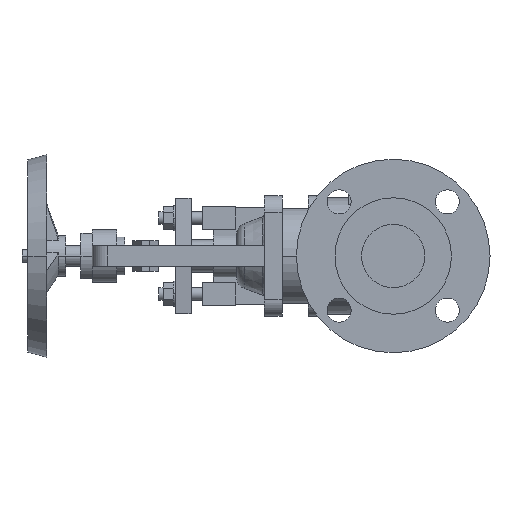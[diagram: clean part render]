
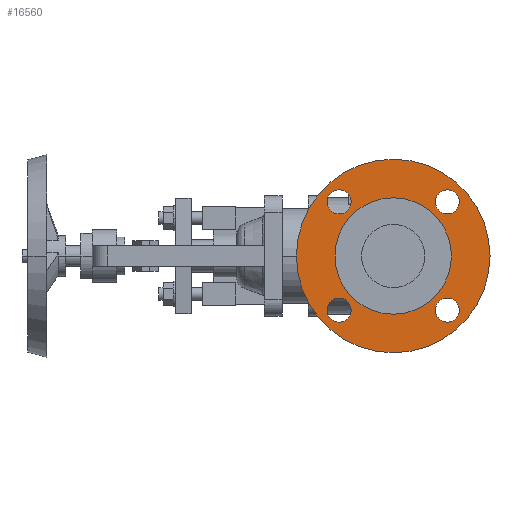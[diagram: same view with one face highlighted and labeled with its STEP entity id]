
A CAD part, left-side view. The second image highlights one B-rep face of the part: STEP entity #16560.
In plain terms, the highlighted planar face has unit normal (-1, 0, 0).
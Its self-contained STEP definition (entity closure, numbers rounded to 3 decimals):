
#3300=CARTESIAN_POINT('',(1.6,0.,76.5));
#3310=VERTEX_POINT('',#3300);
#3340=CARTESIAN_POINT('',(1.6,0.,0.));
#3350=DIRECTION('',(1.,0.,0.));
#3360=DIRECTION('',(0.,0.,-1.));
#3370=AXIS2_PLACEMENT_3D('',#3340,#3350,#3360);
#3380=CIRCLE('',#3370,76.5);
#3390=CARTESIAN_POINT('',(1.6,0.,-76.5));
#3400=VERTEX_POINT('',#3390);
#3410=EDGE_CURVE('',#3400,#3310,#3380,.T.);
#3790=CARTESIAN_POINT('',(1.6,42.78,
-52.28));
#3800=VERTEX_POINT('',#3790);
#3960=CARTESIAN_POINT('',(1.6,42.78,
-33.28));
#3970=VERTEX_POINT('',#3960);
#4000=CARTESIAN_POINT('',(1.6,42.78,
-42.78));
#4010=DIRECTION('',(-1.,0.,0.));
#4020=DIRECTION('',(0.,0.,-1.));
#4030=AXIS2_PLACEMENT_3D('',#4000,#4010,#4020);
#4040=CIRCLE('',#4030,9.5);
#4050=EDGE_CURVE('',#3800,#3970,#4040,.T.);
#4280=CARTESIAN_POINT('',(1.6,-42.78,
-33.28));
#4290=VERTEX_POINT('',#4280);
#4320=CARTESIAN_POINT('',(1.6,-42.78,
-42.78));
#4330=DIRECTION('',(-1.,0.,0.));
#4340=DIRECTION('',(0.,0.,-1.));
#4350=AXIS2_PLACEMENT_3D('',#4320,#4330,#4340);
#4360=CIRCLE('',#4350,9.5);
#4370=CARTESIAN_POINT('',(1.6,-42.78,
-52.28));
#4380=VERTEX_POINT('',#4370);
#4390=EDGE_CURVE('',#4380,#4290,#4360,.T.);
#4770=CARTESIAN_POINT('',(1.6,42.78,
52.28));
#4780=VERTEX_POINT('',#4770);
#4940=CARTESIAN_POINT('',(1.6,42.78,
33.28));
#4950=VERTEX_POINT('',#4940);
#4980=CARTESIAN_POINT('',(1.6,42.78,
42.78));
#4990=DIRECTION('',(-1.,0.,0.));
#5000=DIRECTION('',(0.,0.,-1.));
#5010=AXIS2_PLACEMENT_3D('',#4980,#4990,#5000);
#5020=CIRCLE('',#5010,9.5);
#5030=EDGE_CURVE('',#4780,#4950,#5020,.T.);
#5260=CARTESIAN_POINT('',(1.6,-42.78,
52.28));
#5270=VERTEX_POINT('',#5260);
#5430=CARTESIAN_POINT('',(1.6,-42.78,
33.28));
#5440=VERTEX_POINT('',#5430);
#5470=CARTESIAN_POINT('',(1.6,-42.78,
42.78));
#5480=DIRECTION('',(-1.,0.,0.));
#5490=DIRECTION('',(0.,0.,-1.));
#5500=AXIS2_PLACEMENT_3D('',#5470,#5480,#5490);
#5510=CIRCLE('',#5500,9.5);
#5520=EDGE_CURVE('',#5270,#5440,#5510,.T.);
#5750=CARTESIAN_POINT('',(1.6,46.,0.));
#5760=VERTEX_POINT('',#5750);
#5920=CARTESIAN_POINT('',(1.6,-46.,0.));
#5930=VERTEX_POINT('',#5920);
#5960=CARTESIAN_POINT('',(1.6,0.,0.));
#5970=DIRECTION('',(-1.,0.,0.));
#5980=DIRECTION('',(0.,1.,0.));
#5990=AXIS2_PLACEMENT_3D('',#5960,#5970,#5980);
#6000=CIRCLE('',#5990,46.);
#6010=EDGE_CURVE('',#5760,#5930,#6000,.T.);
#16210=CARTESIAN_POINT('',(1.6,61.25,0.)
);
#16220=DIRECTION('',(1.,0.,0.));
#16230=DIRECTION('',(0.,-1.,0.));
#16240=AXIS2_PLACEMENT_3D('',#16210,#16220,#16230);
#16250=PLANE('',#16240);
#16260=EDGE_CURVE('',#5930,#5760,#6000,.T.);
#16270=ORIENTED_EDGE('',*,*,#16260,.F.);
#16280=ORIENTED_EDGE('',*,*,#6010,.F.);
#16290=EDGE_LOOP('',(#16280,#16270));
#16300=FACE_BOUND('',#16290,.T.);
#16310=ORIENTED_EDGE('',*,*,#3410,.F.);
#16320=EDGE_CURVE('',#3310,#3400,#3380,.T.);
#16330=ORIENTED_EDGE('',*,*,#16320,.F.);
#16340=EDGE_LOOP('',(#16330,#16310));
#16350=FACE_OUTER_BOUND('',#16340,.T.);
#16360=EDGE_CURVE('',#3970,#3800,#4040,.T.);
#16370=ORIENTED_EDGE('',*,*,#16360,.F.);
#16380=ORIENTED_EDGE('',*,*,#4050,.F.);
#16390=EDGE_LOOP('',(#16380,#16370));
#16400=FACE_BOUND('',#16390,.T.);
#16410=EDGE_CURVE('',#4290,#4380,#4360,.T.);
#16420=ORIENTED_EDGE('',*,*,#16410,.F.);
#16430=ORIENTED_EDGE('',*,*,#4390,.F.);
#16440=EDGE_LOOP('',(#16430,#16420));
#16450=FACE_BOUND('',#16440,.T.);
#16460=EDGE_CURVE('',#4950,#4780,#5020,.T.);
#16470=ORIENTED_EDGE('',*,*,#16460,.F.);
#16480=ORIENTED_EDGE('',*,*,#5030,.F.);
#16490=EDGE_LOOP('',(#16480,#16470));
#16500=FACE_BOUND('',#16490,.T.);
#16510=EDGE_CURVE('',#5440,#5270,#5510,.T.);
#16520=ORIENTED_EDGE('',*,*,#16510,.F.);
#16530=ORIENTED_EDGE('',*,*,#5520,.F.);
#16540=EDGE_LOOP('',(#16530,#16520));
#16550=FACE_BOUND('',#16540,.T.);
#16560=ADVANCED_FACE('',(#16300,#16350,#16400,#16450,#16500,#16550),
#16250,.F.);
